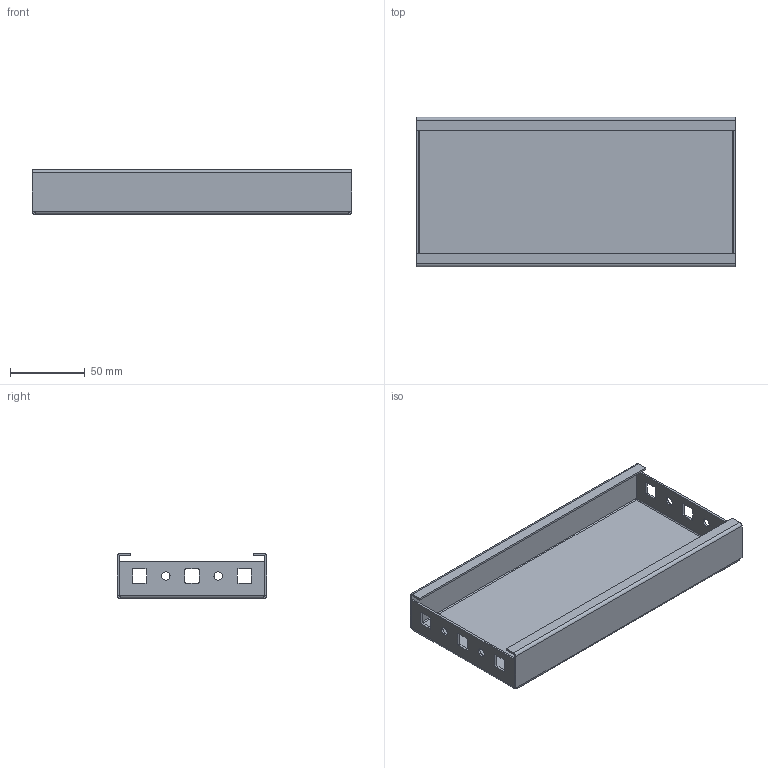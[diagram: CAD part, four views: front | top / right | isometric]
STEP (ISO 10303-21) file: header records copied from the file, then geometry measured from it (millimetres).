
FILE_DESCRIPTION(('CAx-IF Rec.Pracs.---Model Styling and Organization---1.2---2011-12-15','CAx-IF Rec.Pracs.---Geometric and Assembly Validation Properties---4.1---2014-06-16','CAx-IF Rec.Pracs.---PMI Polyline Presentation---2.0---2013-05-24'),'2;1');
FILE_NAME('R5FP40.stp','2021-05-05T13:31:38+03:00',(''),(''),'STEP Interface 4.4 by CT CoreTechnologie','3D_Evolution4.4 by CT CoreTechnologie','');
FILE_SCHEMA(('AUTOMOTIVE_DESIGN { 1 0 10303 214 1 1 1 1 }'));
Length unit declared in the file: millimetre
Products named in the file (1): R5FP40
Bounding box: 214 x 100 x 30 mm (x, y, z)
Surface area: 82682.1 mm2 (no closed solid volume)
Topology: 0 solids, 2 shells, 110 faces, 294 edges, 188 vertices
Faces by surface type: plane 66, cylinder 44
Entity records: 3480 total; most frequent: DIRECTION 604, CARTESIAN_POINT 593, ORIENTED_EDGE 588, EDGE_CURVE 294, VECTOR 206, LINE 206, AXIS2_PLACEMENT_3D 199, VERTEX_POINT 188
